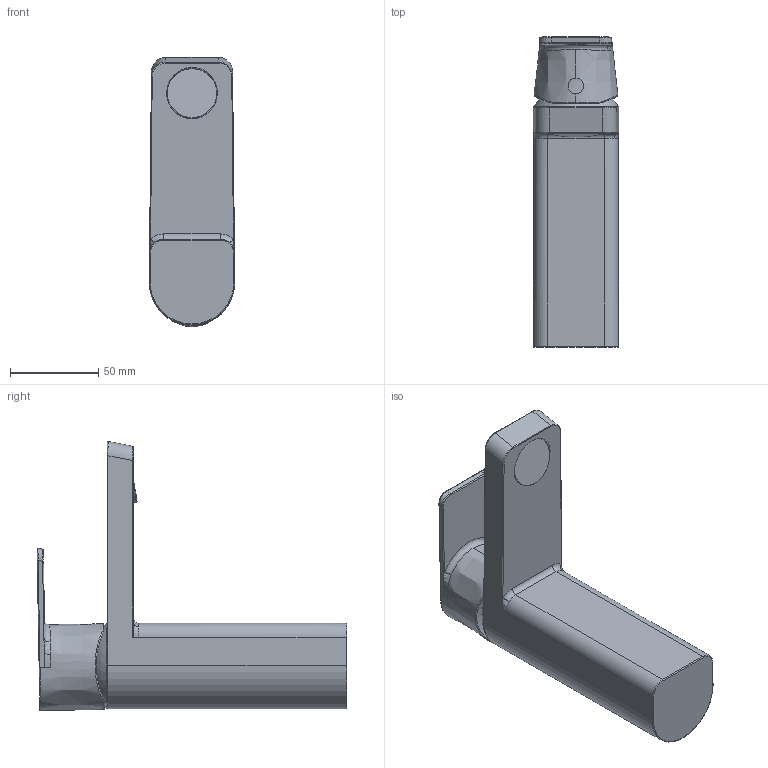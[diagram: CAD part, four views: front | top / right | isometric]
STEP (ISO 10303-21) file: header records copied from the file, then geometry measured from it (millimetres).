
FILE_DESCRIPTION (( 'STEP AP203' ), '1' );
FILE_NAME ('4805F(2021).STEP', '2020-10-30T10:21:32', ( '' ), ( '' ), 'SwSTEP 2.0', 'SolidWorks 2016', '' );
FILE_SCHEMA (( 'CONFIG_CONTROL_DESIGN' ));
Length unit declared in the file: millimetre
Products named in the file (1): 4805F(2021)
Bounding box: 48.5 x 175.66 x 152.59 mm (x, y, z)
Volume: 425457.9 mm3; surface area: 49705.4 mm2
Topology: 1 solids, 1 shells, 87 faces, 215 edges, 134 vertices
Faces by surface type: bspline 42, cylinder 20, plane 14, torus 10, sphere 1
Entity records: 8656 total; most frequent: CARTESIAN_POINT 6803, ORIENTED_EDGE 426, DIRECTION 274, EDGE_CURVE 213, VERTEX_POINT 133, AXIS2_PLACEMENT_3D 103, EDGE_LOOP 92, ADVANCED_FACE 87
